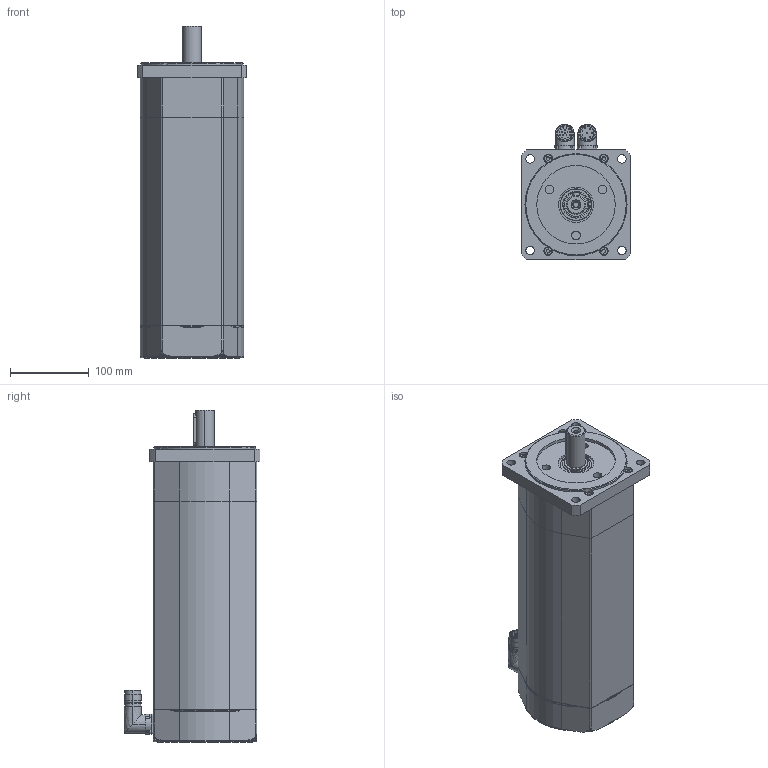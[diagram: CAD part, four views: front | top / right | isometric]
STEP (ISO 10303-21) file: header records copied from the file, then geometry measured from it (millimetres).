
FILE_DESCRIPTION (( 'STEP AP203' ), '1' );
FILE_NAME ('SSAX140XXL_CF.STEP', '2015-09-10T13:18:22', ( 'Tecnico motori' ), ( '' ), 'SwSTEP 2.0', 'SolidWorks 2010', '' );
FILE_SCHEMA (( 'CONFIG_CONTROL_DESIGN' ));
Length unit declared in the file: millimetre
Products named in the file (1): SSAX140XXL_CF
Bounding box: 140 x 173 x 422.85 mm (x, y, z)
Surface area: 243436.3 mm2 (no closed solid volume)
Topology: 0 solids, 31 shells, 459 faces, 1297 edges, 899 vertices
Faces by surface type: cylinder 216, plane 186, cone 29, torus 20, bspline 8
Entity records: 15894 total; most frequent: CARTESIAN_POINT 3578, DIRECTION 2755, ORIENTED_EDGE 2243, EDGE_CURVE 1297, AXIS2_PLACEMENT_3D 1080, VERTEX_POINT 899, CIRCLE 628, LINE 595
